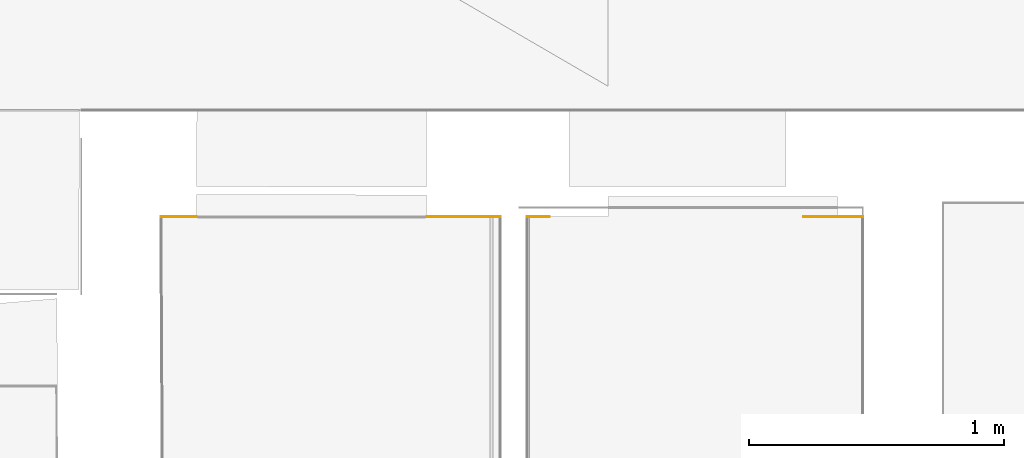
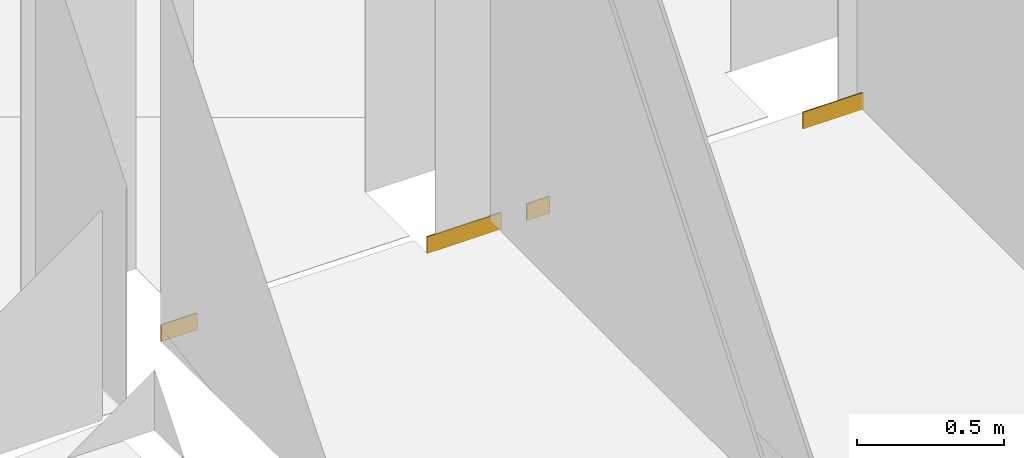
# One storey, part 15 of 16: 4 coverings.
"""IFC2X3 building model written with IfcOpenShell, lengths in millimetres."""

from ifc_helpers import new_model, entity, si_unit, converted_unit, derived_unit, money_unit, direction, frame, origin_with_axes, place, context, subcontext, project, spatial, polyline, outline, extrude, material, type_object, element, save


model = new_model("IFC2X3")

# Units and contexts
model_context = context("Model", 3, precision=0.01, world=origin_with_axes(), true_north=direction((0.0, 1.0)))
body_context = subcontext(model_context, "Body", "Model", "MODEL_VIEW")
ifc_project = project(units=[si_unit("LENGTHUNIT", "METRE", prefix="MILLI"), si_unit("AREAUNIT", "SQUARE_METRE"), si_unit("VOLUMEUNIT", "CUBIC_METRE"), converted_unit("PLANEANGLEUNIT", "DEGREE", entity("IfcPlaneAngleMeasure", 0.0174532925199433), si_unit("PLANEANGLEUNIT", "RADIAN"), dimensions=[0, 0, 0, 0, 0, 0, 0]), money_unit("EUR"), converted_unit("TIMEUNIT", "Year", entity("IfcTimeMeasure", 31556926.0), si_unit("TIMEUNIT", "SECOND"), dimensions=[0, 0, 1, 0, 0, 0, 0]), si_unit("MASSUNIT", "GRAM", prefix="KILO"), si_unit("THERMODYNAMICTEMPERATUREUNIT", "DEGREE_CELSIUS"), si_unit("LUMINOUSINTENSITYUNIT", "LUMEN"), si_unit("ENERGYUNIT", "JOULE", prefix="MEGA"), derived_unit("THERMALCONDUCTANCEUNIT", [(si_unit("POWERUNIT", "WATT"), 1), (si_unit("LENGTHUNIT", "METRE"), -1), (si_unit("THERMODYNAMICTEMPERATUREUNIT", "KELVIN"), -1)]), derived_unit("SPECIFICHEATCAPACITYUNIT", [(si_unit("ENERGYUNIT", "JOULE"), 1), (si_unit("MASSUNIT", "GRAM", prefix="KILO"), -1), (si_unit("THERMODYNAMICTEMPERATUREUNIT", "KELVIN"), -1)]), derived_unit("MASSDENSITYUNIT", [(si_unit("MASSUNIT", "GRAM", prefix="KILO"), 1), (si_unit("VOLUMEUNIT", "CUBIC_METRE"), -1)])], contexts=[model_context])

# Site, building, storey
site_placement = place(None, origin_with_axes())
site = spatial("IfcSite", under=ifc_project, at=site_placement, Name="Paldiski mnt 245/1, Tallinn, Harjumaa", CompositionType="COMPLEX")
building_placement = place(site_placement, origin_with_axes())
building = spatial("IfcBuilding", under=site, at=building_placement, Name="RKAS Hoone üldnimetus (kasutust iseloomustav) -> IFC Project Manager -> SOLIBRI", CompositionType="ELEMENT")
storey_placement = place(building_placement, frame((0.0, 0.0, 3300.0), z_axis=(0.0, 0.0, 1.0), x_axis=(1.0, 0.0, 0.0)))
storey = spatial("IfcBuildingStorey", under=building, at=storey_placement, Name="Teine korrus", CompositionType="ELEMENT", Elevation=3300.0)

# Coverings
ifc_material = material(Name="SA- PM-2 vinüül hex")
covering_type = type_object("IfcCoveringType", Name="PL-5 4 x 70", PredefinedType="CEILING")
covering_1_placement = place(storey_placement, frame((-34240.00000000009, -6484.999999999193, 0.0), z_axis=(0.0, 0.0, 1.0), x_axis=(0.0, -1.0, 0.0)))
element("IfcCovering", 1, at=covering_1_placement, inside=storey, type_object=covering_type, material=ifc_material, Name="RL-1", PredefinedType="CEILING", context=body_context, shape_type="SweptSolid", body=[
    extrude(outline(polyline([(0.0, 0.0), (3.870666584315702, 0.05666066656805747), (3.867237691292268, 69.8968563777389), (0.01253269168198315, 69.86981450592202), (0.0, 0.0)])), frame((0.0, 290.9995337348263, 0.0), z_axis=(0.0, -1.0, 0.0), x_axis=(1.0, 0.0, 0.0)), (0.0, 0.0, 1.0), 290.9995337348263),
])
covering_2_placement = place(storey_placement, frame((-32766.47398805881, -6484.999999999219, 0.0), z_axis=(0.0, 0.0, 1.0), x_axis=(0.0, -1.0, 0.0)))
element("IfcCovering", 2, at=covering_2_placement, inside=storey, type_object=covering_type, material=ifc_material, Name="RL-1", PredefinedType="CEILING", context=body_context, shape_type="SweptSolid", body=[
    extrude(outline(polyline([(0.0, 0.0), (3.870666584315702, 0.05666066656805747), (3.867237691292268, 69.8968563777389), (0.01253269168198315, 69.86981450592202), (0.0, 0.0)])), frame((0.0, 236.4739880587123, 0.0), z_axis=(0.0, -1.0, 0.0), x_axis=(1.0, 0.0, 0.0)), (0.0, 0.0, 1.0), 236.4739880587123),
])
covering_3_placement = place(storey_placement, frame((-33849.00046626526, -6484.999999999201, 0.0), z_axis=(0.0, 0.0, 1.0), x_axis=(0.0, -1.0, 0.0)))
element("IfcCovering", 3, at=covering_3_placement, inside=storey, type_object=covering_type, material=ifc_material, Name="RL-1", PredefinedType="CEILING", context=body_context, shape_type="SweptSolid", body=[
    extrude(outline(polyline([(0.0, 0.0), (3.870666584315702, 0.05666066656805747), (3.867237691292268, 69.8968563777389), (0.01253269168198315, 69.86981450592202), (0.0, 0.0)])), frame((0.0, 90.34962467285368, 0.0), z_axis=(0.0, -1.0, 0.0), x_axis=(1.0, 0.0, 0.0)), (0.0, 0.0, 1.0), 90.34962467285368),
])
covering_4_placement = place(storey_placement, frame((-35281.64261632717, -6484.99999999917, 0.0), z_axis=(0.0, 0.0, 1.0), x_axis=(0.0, -1.0, 0.0)))
element("IfcCovering", 4, at=covering_4_placement, inside=storey, type_object=covering_type, material=ifc_material, Name="RL-1", PredefinedType="CEILING", context=body_context, shape_type="SweptSolid", body=[
    extrude(outline(polyline([(0.0, 0.0), (3.870666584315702, 0.05666066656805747), (3.867237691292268, 69.8968563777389), (0.01253269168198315, 69.86981450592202), (0.0, 0.0)])), frame((0.0, 141.6426163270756, 0.0), z_axis=(0.0, -1.0, 0.0), x_axis=(1.0, 0.0, 0.0)), (0.0, 0.0, 1.0), 141.6426163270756),
])

save(model, "model.ifc")
